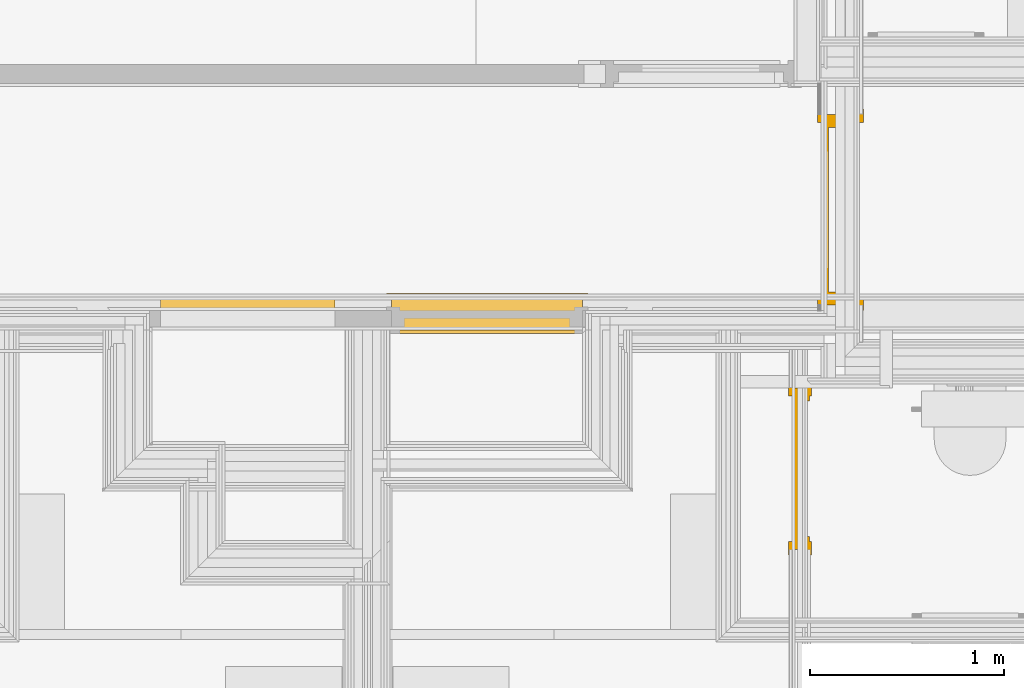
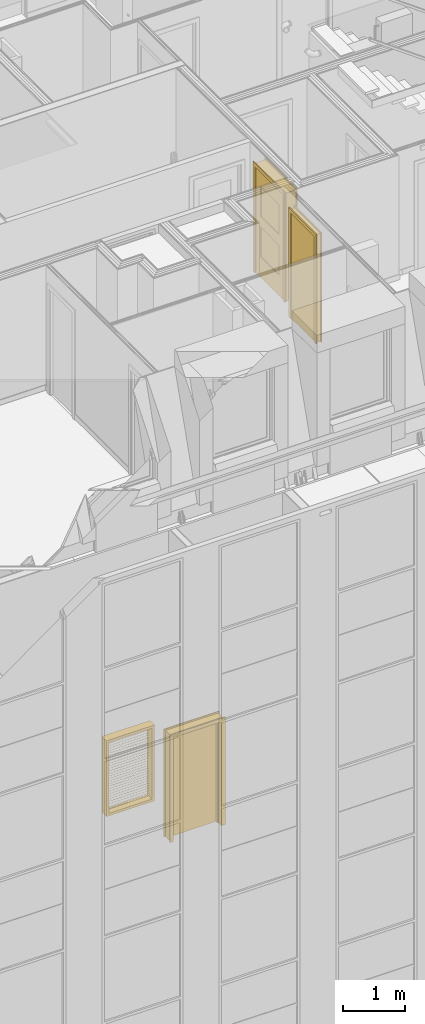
# One storey, part 106 of 169: 3 doors, 1 curtain wall.
"""IFC2X3 building model written with IfcOpenShell, lengths in metres."""

from ifc_helpers import new_model, entity, si_unit, converted_unit, derived_unit, money_unit, direction, frame, origin_with_axes, place, context, subcontext, project, spatial, open_shell, faceted_brep, surface_model, material, type_object, element, save


model = new_model("IFC2X3")

# Units and contexts
model_context = context("Model", 3, precision=1e-05, world=origin_with_axes(), true_north=direction((0.0, 1.0)))
body_context = subcontext(model_context, "Body", "Model", "MODEL_VIEW", scale=1.0)
ifc_project = project(units=[si_unit("LENGTHUNIT", "METRE"), si_unit("AREAUNIT", "SQUARE_METRE"), si_unit("VOLUMEUNIT", "CUBIC_METRE"), si_unit("ABSORBEDDOSEUNIT", "GRAY"), si_unit("AMOUNTOFSUBSTANCEUNIT", "MOLE"), si_unit("DOSEEQUIVALENTUNIT", "SIEVERT"), si_unit("ELECTRICCAPACITANCEUNIT", "FARAD"), si_unit("ELECTRICCHARGEUNIT", "COULOMB"), si_unit("ELECTRICCONDUCTANCEUNIT", "SIEMENS"), si_unit("ELECTRICCURRENTUNIT", "AMPERE"), si_unit("ELECTRICRESISTANCEUNIT", "OHM"), si_unit("ELECTRICVOLTAGEUNIT", "VOLT"), si_unit("ENERGYUNIT", "JOULE"), si_unit("FORCEUNIT", "NEWTON"), si_unit("FREQUENCYUNIT", "HERTZ"), si_unit("ILLUMINANCEUNIT", "LUX"), si_unit("INDUCTANCEUNIT", "HENRY"), si_unit("LUMINOUSFLUXUNIT", "LUMEN"), si_unit("LUMINOUSINTENSITYUNIT", "CANDELA"), si_unit("MAGNETICFLUXDENSITYUNIT", "TESLA"), si_unit("MAGNETICFLUXUNIT", "WEBER"), si_unit("MASSUNIT", "GRAM"), converted_unit("PLANEANGLEUNIT", "degree", entity("IfcReal", 0.0174532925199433), si_unit("PLANEANGLEUNIT", "RADIAN"), dimensions=[0, 0, 0, 0, 0, 0, 0]), si_unit("POWERUNIT", "WATT"), si_unit("PRESSUREUNIT", "PASCAL"), si_unit("RADIOACTIVITYUNIT", "BECQUEREL"), si_unit("SOLIDANGLEUNIT", "STERADIAN"), si_unit("THERMODYNAMICTEMPERATUREUNIT", "KELVIN"), si_unit("TIMEUNIT", "SECOND"), derived_unit("ACCELERATIONUNIT", [(si_unit("LENGTHUNIT", "METRE"), 1), (si_unit("TIMEUNIT", "SECOND"), -2)]), derived_unit("ANGULARVELOCITYUNIT", [(converted_unit("PLANEANGLEUNIT", "degree", entity("IfcReal", 0.0174532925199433), si_unit("PLANEANGLEUNIT", "RADIAN"), dimensions=[0, 0, 0, 0, 0, 0, 0]), 1), (si_unit("TIMEUNIT", "SECOND"), -1)]), derived_unit("CURVATUREUNIT", [(converted_unit("PLANEANGLEUNIT", "degree", entity("IfcReal", 0.0174532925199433), si_unit("PLANEANGLEUNIT", "RADIAN"), dimensions=[0, 0, 0, 0, 0, 0, 0]), 1), (si_unit("LENGTHUNIT", "METRE"), -1)]), derived_unit("DYNAMICVISCOSITYUNIT", [(si_unit("PRESSUREUNIT", "PASCAL"), 1), (si_unit("TIMEUNIT", "SECOND"), 1)]), derived_unit("HEATFLUXDENSITYUNIT", [(si_unit("POWERUNIT", "WATT"), 1), (si_unit("LENGTHUNIT", "METRE"), -2)]), derived_unit("HEATINGVALUEUNIT", [(si_unit("ENERGYUNIT", "JOULE"), 1), (si_unit("MASSUNIT", "GRAM"), -1)]), derived_unit("INTEGERCOUNTRATEUNIT", [(si_unit("TIMEUNIT", "SECOND"), -1)]), derived_unit("IONCONCENTRATIONUNIT", [(si_unit("MASSUNIT", "GRAM"), 1), (si_unit("VOLUMEUNIT", "CUBIC_METRE"), -1)]), derived_unit("ISOTHERMALMOISTURECAPACITYUNIT", [(si_unit("VOLUMEUNIT", "CUBIC_METRE"), 1), (si_unit("MASSUNIT", "GRAM"), -1)]), derived_unit("KINEMATICVISCOSITYUNIT", [(si_unit("AREAUNIT", "SQUARE_METRE"), 1), (si_unit("TIMEUNIT", "SECOND"), -1)]), derived_unit("LINEARFORCEUNIT", [(si_unit("FORCEUNIT", "NEWTON"), 1), (si_unit("LENGTHUNIT", "METRE"), -1)]), derived_unit("LINEARMOMENTUNIT", [(si_unit("FORCEUNIT", "NEWTON"), 1), (si_unit("LENGTHUNIT", "METRE"), -1)]), derived_unit("LINEARSTIFFNESSUNIT", [(si_unit("FORCEUNIT", "NEWTON"), 1), (si_unit("LENGTHUNIT", "METRE"), -1)]), derived_unit("LINEARVELOCITYUNIT", [(si_unit("LENGTHUNIT", "METRE"), 1), (si_unit("TIMEUNIT", "SECOND"), -1)]), derived_unit("LUMINOUSINTENSITYDISTRIBUTIONUNIT", [(si_unit("LUMINOUSINTENSITYUNIT", "CANDELA"), 1), (si_unit("LUMINOUSFLUXUNIT", "LUMEN"), -1)]), derived_unit("MASSDENSITYUNIT", [(si_unit("MASSUNIT", "GRAM"), 1), (si_unit("VOLUMEUNIT", "CUBIC_METRE"), -1)]), derived_unit("MASSFLOWRATEUNIT", [(si_unit("MASSUNIT", "GRAM"), 1), (si_unit("TIMEUNIT", "SECOND"), -1)]), derived_unit("MASSPERLENGTHUNIT", [(si_unit("MASSUNIT", "GRAM"), 1), (si_unit("LENGTHUNIT", "METRE"), -1)]), derived_unit("MODULUSOFELASTICITYUNIT", [(si_unit("FORCEUNIT", "NEWTON"), 1), (si_unit("AREAUNIT", "SQUARE_METRE"), -1)]), derived_unit("MODULUSOFLINEARSUBGRADEREACTIONUNIT", [(si_unit("FORCEUNIT", "NEWTON"), 1), (si_unit("LENGTHUNIT", "METRE"), -2)]), derived_unit("MODULUSOFROTATIONALSUBGRADEREACTIONUNIT", [(si_unit("FORCEUNIT", "NEWTON"), 1), (si_unit("LENGTHUNIT", "METRE"), 1)]), derived_unit("MODULUSOFSUBGRADEREACTIONUNIT", [(si_unit("FORCEUNIT", "NEWTON"), 1), (si_unit("VOLUMEUNIT", "CUBIC_METRE"), -1)]), derived_unit("MOISTUREDIFFUSIVITYUNIT", [(si_unit("VOLUMEUNIT", "CUBIC_METRE"), 1), (si_unit("TIMEUNIT", "SECOND"), -1)]), derived_unit("MOLECULARWEIGHTUNIT", [(si_unit("MASSUNIT", "GRAM"), 1), (si_unit("AMOUNTOFSUBSTANCEUNIT", "MOLE"), -1)]), derived_unit("PLANARFORCEUNIT", [(si_unit("FORCEUNIT", "NEWTON"), 1), (si_unit("LENGTHUNIT", "METRE"), -2)]), derived_unit("ROTATIONALFREQUENCYUNIT", [(si_unit("TIMEUNIT", "SECOND"), -1)]), derived_unit("ROTATIONALMASSUNIT", [(si_unit("MASSUNIT", "GRAM"), 1), (si_unit("LENGTHUNIT", "METRE"), 2)]), derived_unit("ROTATIONALSTIFFNESSUNIT", [(si_unit("FORCEUNIT", "NEWTON"), 1), (si_unit("LENGTHUNIT", "METRE"), 1), (converted_unit("PLANEANGLEUNIT", "degree", entity("IfcReal", 0.0174532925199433), si_unit("PLANEANGLEUNIT", "RADIAN"), dimensions=[0, 0, 0, 0, 0, 0, 0]), -1)]), derived_unit("SECTIONAREAINTEGRALUNIT", [(si_unit("LENGTHUNIT", "METRE"), 5)]), derived_unit("SECTIONMODULUSUNIT", [(si_unit("LENGTHUNIT", "METRE"), 3)]), derived_unit("SHEARMODULUSUNIT", [(si_unit("FORCEUNIT", "NEWTON"), 1), (si_unit("AREAUNIT", "SQUARE_METRE"), -1)]), derived_unit("SOUNDPOWERUNIT", [(si_unit("ENERGYUNIT", "JOULE"), 1), (si_unit("TIMEUNIT", "SECOND"), -1)]), derived_unit("SPECIFICHEATCAPACITYUNIT", [(si_unit("FORCEUNIT", "NEWTON"), 1), (si_unit("MASSUNIT", "GRAM"), -1), (si_unit("THERMODYNAMICTEMPERATUREUNIT", "KELVIN"), -1)]), derived_unit("TEMPERATUREGRADIENTUNIT", [(si_unit("THERMODYNAMICTEMPERATUREUNIT", "KELVIN"), 1), (si_unit("LENGTHUNIT", "METRE"), -1)]), derived_unit("THERMALADMITTANCEUNIT", [(si_unit("POWERUNIT", "WATT"), 1), (si_unit("AREAUNIT", "SQUARE_METRE"), -1), (si_unit("THERMODYNAMICTEMPERATUREUNIT", "KELVIN"), -1)]), derived_unit("THERMALCONDUCTANCEUNIT", [(si_unit("POWERUNIT", "WATT"), 1), (si_unit("LENGTHUNIT", "METRE"), -1), (si_unit("THERMODYNAMICTEMPERATUREUNIT", "KELVIN"), -1)]), derived_unit("THERMALEXPANSIONCOEFFICIENTUNIT", [(si_unit("THERMODYNAMICTEMPERATUREUNIT", "KELVIN"), -1)]), derived_unit("THERMALRESISTANCEUNIT", [(si_unit("AREAUNIT", "SQUARE_METRE"), 1), (si_unit("POWERUNIT", "WATT"), -1)]), derived_unit("THERMALTRANSMITTANCEUNIT", [(si_unit("POWERUNIT", "WATT"), 1), (si_unit("AREAUNIT", "SQUARE_METRE"), -1), (si_unit("THERMODYNAMICTEMPERATUREUNIT", "KELVIN"), -1)]), derived_unit("TORQUEUNIT", [(si_unit("FORCEUNIT", "NEWTON"), 1), (si_unit("LENGTHUNIT", "METRE"), 1)]), derived_unit("VAPORPERMEABILITYUNIT", [(si_unit("MASSUNIT", "GRAM"), 1), (si_unit("TIMEUNIT", "SECOND"), -1)]), derived_unit("VOLUMETRICFLOWRATEUNIT", [(si_unit("VOLUMEUNIT", "CUBIC_METRE"), 1), (si_unit("TIMEUNIT", "SECOND"), -1)]), derived_unit("WARPINGCONSTANTUNIT", [(si_unit("LENGTHUNIT", "METRE"), 6)]), derived_unit("WARPINGMOMENTUNIT", [(si_unit("FORCEUNIT", "NEWTON"), 1), (si_unit("LENGTHUNIT", "METRE"), 2)]), money_unit("GBP")], contexts=[model_context])

# Site, building, storey
site_placement = place(None, origin_with_axes())
site = spatial("IfcSite", under=ifc_project, at=site_placement, Name="Site", CompositionType="ELEMENT")
building_placement = place(site_placement, origin_with_axes())
building = spatial("IfcBuilding", under=site, at=building_placement, Name="Building01", CompositionType="ELEMENT")
storey_placement = place(building_placement, frame((0.0, 0.0, 5.15), z_axis=(0.0, 0.0, 1.0), x_axis=(1.0, 0.0, 0.0)))
storey = spatial("IfcBuildingStorey", under=building, at=storey_placement, Name="1F", CompositionType="ELEMENT", Elevation=5.15)

# Curtain wall
ifc_material_1 = material(Name="A-CurtainWall_Frame")
curtain_wall_type = type_object("IfcCurtainWallType", Name="Generic - Maximum Spacing", PredefinedType="NOTDEFINED")
curtain_wall_placement = place(storey_placement, frame((0.0, 0.0, -5.15), z_axis=(0.0, 0.0, 1.0), x_axis=(1.0, 0.0, 0.0)))
element("IfcCurtainWall", 1, at=curtain_wall_placement, inside=storey, type_object=curtain_wall_type, material=ifc_material_1, Name="Generic - Maximum Spacing", ObjectType="Generic - Maximum Spacing", context=body_context, shape_type="SurfaceModel", body=[
    surface_model("IfcShellBasedSurfaceModel", [(12.483, 5.12953, 6.083684), (12.483, 5.131392, 6.086216), (12.483, 5.09047, 6.116316), (12.483, 5.088608, 6.113784), (13.283, 5.12953, 6.083684), (13.283, 5.088608, 6.113784), (13.283, 5.09047, 6.116316), (13.283, 5.131392, 6.086216), (12.483, 5.131392, 6.136216), (12.483, 5.09047, 6.166316), (12.483, 5.088608, 6.163784), (12.483, 5.12953, 6.133684), (13.283, 5.12953, 6.133684), (13.283, 5.088608, 6.163784), (13.283, 5.09047, 6.166316), (13.283, 5.131392, 6.136216), (12.483, 5.131392, 6.186216), (12.483, 5.09047, 6.216316), (12.483, 5.088608, 6.213784), (12.483, 5.12953, 6.183684), (13.283, 5.12953, 6.183684), (13.283, 5.088608, 6.213784), (13.283, 5.09047, 6.216316), (13.283, 5.131392, 6.186216), (12.483, 5.131392, 6.236216), (12.483, 5.09047, 6.266316), (12.483, 5.088608, 6.263784), (12.483, 5.12953, 6.233684), (13.283, 5.12953, 6.233684), (13.283, 5.088608, 6.263784), (13.283, 5.09047, 6.266316), (13.283, 5.131392, 6.236216), (12.483, 5.131392, 6.286216), (12.483, 5.09047, 6.316316), (12.483, 5.088608, 6.313784), (12.483, 5.12953, 6.283684), (13.283, 5.12953, 6.283684), (13.283, 5.088608, 6.313784), (13.283, 5.09047, 6.316316), (13.283, 5.131392, 6.286216), (12.483, 5.131392, 6.336216), (12.483, 5.09047, 6.366316), (12.483, 5.088608, 6.363784), (12.483, 5.12953, 6.333684), (13.283, 5.12953, 6.333684), (13.283, 5.088608, 6.363784), (13.283, 5.09047, 6.366316), (13.283, 5.131392, 6.336216), (12.483, 5.131392, 6.386216), (12.483, 5.09047, 6.416316), (12.483, 5.088608, 6.413784), (12.483, 5.12953, 6.383684), (13.283, 5.12953, 6.383684), (13.283, 5.088608, 6.413784), (13.283, 5.09047, 6.416316), (13.283, 5.131392, 6.386216), (12.483, 5.131392, 6.436216), (12.483, 5.09047, 6.466316), (12.483, 5.088608, 6.463784), (12.483, 5.12953, 6.433684), (13.283, 5.12953, 6.433684), (13.283, 5.088608, 6.463784), (13.283, 5.09047, 6.466316), (13.283, 5.131392, 6.436216), (12.483, 5.131392, 6.486216), (12.483, 5.09047, 6.516316), (12.483, 5.088608, 6.513784), (12.483, 5.12953, 6.483684), (13.283, 5.12953, 6.483684), (13.283, 5.088608, 6.513784), (13.283, 5.09047, 6.516316), (13.283, 5.131392, 6.486216), (12.483, 5.131392, 6.536216), (12.483, 5.09047, 6.566316), (12.483, 5.088608, 6.563784), (12.483, 5.12953, 6.533684), (13.283, 5.12953, 6.533684), (13.283, 5.088608, 6.563784), (13.283, 5.09047, 6.566316), (13.283, 5.131392, 6.536216), (12.483, 5.131392, 6.586216), (12.483, 5.09047, 6.616316), (12.483, 5.088608, 6.613784), (12.483, 5.12953, 6.583684), (13.283, 5.12953, 6.583684), (13.283, 5.088608, 6.613784), (13.283, 5.09047, 6.616316), (13.283, 5.131392, 6.586216), (12.483, 5.131392, 6.636216), (12.483, 5.09047, 6.666316), (12.483, 5.088608, 6.663784), (12.483, 5.12953, 6.633684), (13.283, 5.12953, 6.633684), (13.283, 5.088608, 6.663784), (13.283, 5.09047, 6.666316), (13.283, 5.131392, 6.636216), (12.483, 5.131392, 6.686216), (12.483, 5.09047, 6.716316), (12.483, 5.088608, 6.713784), (12.483, 5.12953, 6.683684), (13.283, 5.12953, 6.683684), (13.283, 5.088608, 6.713784), (13.283, 5.09047, 6.716316), (13.283, 5.131392, 6.686216), (12.483, 5.131392, 6.736216), (12.483, 5.09047, 6.766316), (12.483, 5.088608, 6.763784), (12.483, 5.12953, 6.733684), (13.283, 5.12953, 6.733684), (13.283, 5.088608, 6.763784), (13.283, 5.09047, 6.766316), (13.283, 5.131392, 6.736216), (12.483, 5.131392, 6.786216), (12.483, 5.09047, 6.816316), (12.483, 5.088608, 6.813784), (12.483, 5.12953, 6.783684), (13.283, 5.12953, 6.783684), (13.283, 5.088608, 6.813784), (13.283, 5.09047, 6.816316), (13.283, 5.131392, 6.786216), (12.483, 5.131392, 6.836216), (12.483, 5.09047, 6.866316), (12.483, 5.088608, 6.863784), (12.483, 5.12953, 6.833684), (13.283, 5.12953, 6.833684), (13.283, 5.088608, 6.863784), (13.283, 5.09047, 6.866316), (13.283, 5.131392, 6.836216), (12.483, 5.131392, 6.886216), (12.483, 5.09047, 6.916316), (12.483, 5.088608, 6.913784), (12.483, 5.12953, 6.883684), (13.283, 5.12953, 6.883684), (13.283, 5.088608, 6.913784), (13.283, 5.09047, 6.916316), (13.283, 5.131392, 6.886216), (12.483, 5.131392, 6.936216), (12.483, 5.09047, 6.966316), (12.483, 5.088608, 6.963784), (12.483, 5.12953, 6.933684), (13.283, 5.12953, 6.933684), (13.283, 5.088608, 6.963784), (13.283, 5.09047, 6.966316), (13.283, 5.131392, 6.936216), (12.483, 5.131392, 6.986216), (12.483, 5.09047, 7.016316), (12.483, 5.088608, 7.013784), (12.483, 5.12953, 6.983684), (13.283, 5.12953, 6.983684), (13.283, 5.088608, 7.013784), (13.283, 5.09047, 7.016316), (13.283, 5.131392, 6.986216), (12.483, 5.131392, 7.036216), (12.483, 5.09047, 7.066316), (12.483, 5.088608, 7.063784), (12.483, 5.12953, 7.033684), (13.283, 5.12953, 7.033684), (13.283, 5.088608, 7.063784), (13.283, 5.09047, 7.066316), (13.283, 5.131392, 7.036216), (12.483, 5.131392, 7.086216), (12.483, 5.09047, 7.116316), (12.483, 5.088608, 7.113784), (12.483, 5.12953, 7.083684), (13.283, 5.12953, 7.083684), (13.283, 5.088608, 7.113784), (13.283, 5.09047, 7.116316), (13.283, 5.131392, 7.086216), (12.483, 5.131392, 7.136216), (12.483, 5.09047, 7.166316), (12.483, 5.088608, 7.163784), (12.483, 5.12953, 7.133684), (13.283, 5.12953, 7.133684), (13.283, 5.088608, 7.163784), (13.283, 5.09047, 7.166316), (13.283, 5.131392, 7.136216), (12.483, 5.131392, 7.186216), (12.483, 5.09047, 7.216316), (12.483, 5.088608, 7.213784), (12.483, 5.12953, 7.183684), (13.283, 5.12953, 7.183684), (13.283, 5.088608, 7.213784), (13.283, 5.09047, 7.216316), (13.283, 5.131392, 7.186216), (12.483, 5.131392, 7.236216), (12.483, 5.09047, 7.266316), (12.483, 5.088608, 7.263784), (12.483, 5.12953, 7.233684), (13.283, 5.12953, 7.233684), (13.283, 5.088608, 7.263784), (13.283, 5.09047, 7.266316), (13.283, 5.131392, 7.236216), (12.483, 5.131392, 7.286216), (12.483, 5.09047, 7.316316), (12.483, 5.088608, 7.313784), (12.483, 5.12953, 7.283684), (13.283, 5.12953, 7.283684), (13.283, 5.088608, 7.313784), (13.283, 5.09047, 7.316316), (13.283, 5.131392, 7.286216), (12.483, 5.131392, 7.336216), (12.483, 5.09047, 7.366316), (12.483, 5.088608, 7.363784), (12.483, 5.12953, 7.333684), (13.283, 5.12953, 7.333684), (13.283, 5.088608, 7.363784), (13.283, 5.09047, 7.366316), (13.283, 5.131392, 7.336216), (12.483, 5.131392, 7.386216), (12.483, 5.09047, 7.416316), (12.483, 5.088608, 7.413784), (12.483, 5.12953, 7.383684), (13.283, 5.12953, 7.383684), (13.283, 5.088608, 7.413784), (13.283, 5.09047, 7.416316), (13.283, 5.131392, 7.386216), (12.483, 5.131392, 7.436216), (12.483, 5.09047, 7.466316), (12.483, 5.088608, 7.463784), (12.483, 5.12953, 7.433684), (13.283, 5.12953, 7.433684), (13.283, 5.088608, 7.463784), (13.283, 5.09047, 7.466316), (13.283, 5.131392, 7.436216), (13.283, 5.15, 6.1), (13.283, 5.0, 6.1), (13.283, 5.0, 6.05), (13.283, 5.15, 6.05), (12.483, 5.15, 6.05), (12.483, 5.15, 6.1), (12.483, 5.0, 6.1), (12.483, 5.0, 6.05), (13.333, 5.0, 7.55), (13.333, 5.15, 7.55), (13.283, 5.15, 7.55), (13.283, 5.0, 7.55), (13.333, 5.0, 6.05), (13.333, 5.15, 6.05), (12.483, 5.0, 7.55), (12.483, 5.15, 7.55), (12.483, 5.15, 7.5), (12.483, 5.0, 7.5), (13.283, 5.0, 7.5), (13.283, 5.15, 7.5), (12.433, 5.0, 6.05), (12.433, 5.15, 6.05), (12.433, 5.0, 7.55), (12.433, 5.15, 7.55)], [open_shell([[[0, 1, 2, 3]], [[1, 2, 3, 0]], [[4, 5, 6, 7]], [[1, 0, 4, 7]], [[2, 1, 7, 6]], [[3, 2, 6, 5]], [[4, 0, 3, 5]], [[8, 9, 10, 11]], [[12, 13, 14, 15]], [[8, 11, 12, 15]], [[9, 8, 15, 14]], [[10, 9, 14, 13]], [[12, 11, 10, 13]], [[16, 17, 18, 19]], [[20, 21, 22, 23]], [[16, 19, 20, 23]], [[17, 16, 23, 22]], [[18, 17, 22, 21]], [[20, 19, 18, 21]], [[24, 25, 26, 27]], [[28, 29, 30, 31]], [[24, 27, 28, 31]], [[25, 24, 31, 30]], [[26, 25, 30, 29]], [[28, 27, 26, 29]], [[32, 33, 34, 35]], [[36, 37, 38, 39]], [[32, 35, 36, 39]], [[33, 32, 39, 38]], [[34, 33, 38, 37]], [[36, 35, 34, 37]], [[40, 41, 42, 43]], [[44, 45, 46, 47]], [[40, 43, 44, 47]], [[41, 40, 47, 46]], [[42, 41, 46, 45]], [[44, 43, 42, 45]], [[48, 49, 50, 51]], [[52, 53, 54, 55]], [[48, 51, 52, 55]], [[49, 48, 55, 54]], [[50, 49, 54, 53]], [[52, 51, 50, 53]], [[56, 57, 58, 59]], [[60, 61, 62, 63]], [[56, 59, 60, 63]], [[57, 56, 63, 62]], [[58, 57, 62, 61]], [[60, 59, 58, 61]], [[64, 65, 66, 67]], [[68, 69, 70, 71]], [[64, 67, 68, 71]], [[65, 64, 71, 70]], [[66, 65, 70, 69]], [[68, 67, 66, 69]], [[72, 73, 74, 75]], [[76, 77, 78, 79]], [[72, 75, 76, 79]], [[73, 72, 79, 78]], [[74, 73, 78, 77]], [[76, 75, 74, 77]], [[80, 81, 82, 83]], [[84, 85, 86, 87]], [[80, 83, 84, 87]], [[81, 80, 87, 86]], [[82, 81, 86, 85]], [[84, 83, 82, 85]], [[88, 89, 90, 91]], [[92, 93, 94, 95]], [[88, 91, 92, 95]], [[89, 88, 95, 94]], [[90, 89, 94, 93]], [[92, 91, 90, 93]], [[96, 97, 98, 99]], [[100, 101, 102, 103]], [[96, 99, 100, 103]], [[97, 96, 103, 102]], [[98, 97, 102, 101]], [[100, 99, 98, 101]], [[104, 105, 106, 107]], [[108, 109, 110, 111]], [[104, 107, 108, 111]], [[105, 104, 111, 110]], [[106, 105, 110, 109]], [[108, 107, 106, 109]], [[112, 113, 114, 115]], [[116, 117, 118, 119]], [[112, 115, 116, 119]], [[113, 112, 119, 118]], [[114, 113, 118, 117]], [[116, 115, 114, 117]], [[120, 121, 122, 123]], [[124, 125, 126, 127]], [[120, 123, 124, 127]], [[121, 120, 127, 126]], [[122, 121, 126, 125]], [[124, 123, 122, 125]], [[128, 129, 130, 131]], [[132, 133, 134, 135]], [[128, 131, 132, 135]], [[129, 128, 135, 134]], [[130, 129, 134, 133]], [[132, 131, 130, 133]], [[136, 137, 138, 139]], [[140, 141, 142, 143]], [[136, 139, 140, 143]], [[137, 136, 143, 142]], [[138, 137, 142, 141]], [[140, 139, 138, 141]], [[144, 145, 146, 147]], [[148, 149, 150, 151]], [[144, 147, 148, 151]], [[145, 144, 151, 150]], [[146, 145, 150, 149]], [[148, 147, 146, 149]], [[152, 153, 154, 155]], [[156, 157, 158, 159]], [[152, 155, 156, 159]], [[153, 152, 159, 158]], [[154, 153, 158, 157]], [[156, 155, 154, 157]], [[160, 161, 162, 163]], [[164, 165, 166, 167]], [[160, 163, 164, 167]], [[161, 160, 167, 166]], [[162, 161, 166, 165]], [[164, 163, 162, 165]], [[168, 169, 170, 171]], [[172, 173, 174, 175]], [[168, 171, 172, 175]], [[169, 168, 175, 174]], [[170, 169, 174, 173]], [[172, 171, 170, 173]], [[176, 177, 178, 179]], [[180, 181, 182, 183]], [[176, 179, 180, 183]], [[177, 176, 183, 182]], [[178, 177, 182, 181]], [[180, 179, 178, 181]], [[184, 185, 186, 187]], [[188, 189, 190, 191]], [[184, 187, 188, 191]], [[185, 184, 191, 190]], [[186, 185, 190, 189]], [[188, 187, 186, 189]], [[192, 193, 194, 195]], [[196, 197, 198, 199]], [[192, 195, 196, 199]], [[193, 192, 199, 198]], [[194, 193, 198, 197]], [[196, 195, 194, 197]], [[200, 201, 202, 203]], [[204, 205, 206, 207]], [[200, 203, 204, 207]], [[201, 200, 207, 206]], [[202, 201, 206, 205]], [[204, 203, 202, 205]], [[208, 209, 210, 211]], [[212, 213, 214, 215]], [[208, 211, 212, 215]], [[209, 208, 215, 214]], [[210, 209, 214, 213]], [[212, 211, 210, 213]], [[216, 217, 218, 219]], [[220, 221, 222, 223]], [[216, 219, 220, 223]], [[217, 216, 223, 222]], [[218, 217, 222, 221]], [[220, 219, 218, 221]], [[224, 225, 226, 227]], [[227, 228, 229, 224]], [[224, 229, 230, 225]], [[225, 230, 231, 226]], [[226, 231, 228, 227]], [[231, 230, 229, 228]], [[232, 233, 234, 235]], [[235, 226, 236, 232]], [[234, 227, 226, 235]], [[233, 237, 227, 234]], [[232, 236, 237, 233]], [[226, 227, 237, 236]], [[238, 239, 240, 241]], [[241, 242, 235, 238]], [[238, 235, 234, 239]], [[239, 234, 243, 240]], [[240, 243, 242, 241]], [[243, 234, 235, 242]], [[244, 245, 228, 231]], [[231, 238, 246, 244]], [[228, 239, 238, 231]], [[245, 247, 239, 228]], [[244, 246, 247, 245]], [[238, 239, 247, 246]]])]),
])

# Space
space_1_placement = place(storey_placement, frame((17.73844, 7.349915, 9.86), z_axis=(0.0, 0.0, 1.0), x_axis=(0.0, -1.0, 0.0)))
space_1 = spatial("IfcSpace", under=storey, at=space_1_placement, Name="24", CompositionType="ELEMENT", InteriorOrExteriorSpace="NOTDEFINED")

# Door
ifc_material_2 = material(Name="A_BSUK_Doors")
door_style_1 = type_object("IfcDoorStyle", Name="A-Doors-SingleFlush", ConstructionType="USERDEFINED", OperationType="SINGLE_SWING_RIGHT", ParameterTakesPrecedence=False, Sizeable=False)
door_1_placement = place(storey_placement, frame((15.69, 3.889761, 9.83), z_axis=(0.0, 0.0, 1.0), x_axis=(0.0, 1.0, 0.0)))
element("IfcDoor", 2, at=door_1_placement, inside=space_1, type_object=door_style_1, material=ifc_material_2, Name="4.11", ObjectType="A-Doors-SingleFlush", OverallHeight=2.16900000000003, OverallWidth=0.888000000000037, context=body_context, shape_type="Brep", body=[
    faceted_brep([(0.75, -0.099, 0.0), (0.819, -0.099, 0.0), (0.819, -0.099, 2.169), (-0.069, -0.099, 2.169), (-0.069, -0.099, 0.0), (0.0, -0.099, 0.0), (0.0, -0.099, 2.1), (0.75, -0.099, 2.1), (-0.069, -0.08, 0.0), (-0.069, -0.08, 2.169), (0.819, -0.08, 2.169), (0.819, -0.08, 0.0), (0.75, 0.019, 0.0), (0.819, 0.019, 0.0), (0.819, 0.0, 0.0), (0.792, 0.0, 0.0), (0.792, -0.08, 0.0), (0.75, 0.019, 2.1), (0.0, 0.019, 2.1), (0.0, 0.019, 0.0), (-0.069, 0.019, 0.0), (-0.069, 0.019, 2.169), (0.819, 0.019, 2.169), (0.819, 0.0, 2.169), (0.792, -0.08, 2.142), (0.792, 0.0, 2.142), (-0.042, -0.08, 2.142), (-0.042, 0.0, 2.142), (-0.042, -0.08, 0.0), (-0.042, 0.0, 0.0), (-0.069, 0.0, 2.169), (-0.069, 0.0, 0.0)], [[[0, 1, 2, 3, 4, 5, 6, 7]], [[8, 4, 3, 9]], [[10, 2, 1, 11]], [[9, 3, 2, 10]], [[12, 13, 14, 15, 16, 11, 1, 0]], [[7, 17, 12, 0]], [[6, 18, 17, 7]], [[18, 19, 20, 21, 22, 13, 12, 17]], [[5, 19, 18, 6]], [[13, 22, 23, 14]], [[24, 16, 15, 25]], [[26, 24, 25, 27]], [[11, 16, 24, 26, 28, 8, 9, 10]], [[27, 29, 28, 26]], [[25, 15, 14, 23, 30, 31, 29, 27]], [[5, 4, 8, 28, 29, 31, 20, 19]], [[30, 21, 20, 31]], [[23, 22, 21, 30]]]),
    faceted_brep([(0.0, -0.09, 2.1), (0.0, -0.04, 2.1), (0.0, -0.04, 0.0), (0.0, -0.09, 0.0), (0.725, -0.09, 0.0), (0.75, -0.09, 0.0), (0.75, -0.09, 2.1), (0.025, -0.09, 0.0), (0.025, -0.09, 2.075), (0.725, -0.09, 2.075), (0.725, -0.04, 0.0), (0.75, -0.04, 0.0), (0.75, -0.04, 2.1), (0.025, -0.04, 2.075), (0.025, -0.04, 0.0), (0.725, -0.04, 2.075)], [[[0, 1, 2, 3]], [[4, 5, 6, 0, 3, 7, 8, 9]], [[10, 11, 5, 4]], [[6, 12, 1, 0]], [[5, 11, 12, 6]], [[13, 14, 2, 1, 12, 11, 10, 15]], [[7, 14, 13, 8]], [[7, 3, 2, 14]], [[9, 15, 10, 4]], [[8, 13, 15, 9]]]),
    faceted_brep([(0.75, -0.04, 0.0), (0.75, 0.0, 0.0), (0.75, 0.0, 2.1), (0.75, -0.04, 2.1), (0.0, -0.04, 2.1), (0.0, 0.0, 2.1), (0.0, 0.0, 0.0), (0.0, -0.04, 0.0)], [[[0, 1, 2, 3]], [[4, 5, 6, 7]], [[7, 6, 1, 0]], [[3, 4, 7, 0]], [[3, 2, 5, 4]], [[1, 6, 5, 2]]]),
])

# Space
space_2_placement = place(storey_placement, frame((9.227386, 6.85, 0.017932), z_axis=(0.0, 0.0, 1.0), x_axis=(0.0, -1.0, 0.0)))
space_2 = spatial("IfcSpace", under=storey, at=space_2_placement, Name="hall (vented)", CompositionType="ELEMENT", InteriorOrExteriorSpace="NOTDEFINED")

# Door
door_style_2 = type_object("IfcDoorStyle", Name="A-Doors-DoubleFlush", ConstructionType="USERDEFINED", OperationType="DOUBLE_DOOR_SINGLE_SWING", ParameterTakesPrecedence=False, Sizeable=False)
door_2_placement = place(storey_placement, frame((13.667, 5.15, 0.0), z_axis=(0.0, 0.0, 1.0), x_axis=(1.0, 0.0, 0.0)))
element("IfcDoor", 3, at=door_2_placement, inside=space_2, type_object=door_style_2, material=ifc_material_2, Name="1.03", ObjectType="A-Doors-DoubleFlush", OverallHeight=2.12700000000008, OverallWidth=1.03800000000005, context=body_context, shape_type="Brep", body=[
    faceted_brep([(0.0, -0.189, 2.058), (0.9, -0.189, 2.058), (0.9, -0.189, 0.0), (0.969, -0.189, 0.0), (0.969, -0.189, 2.127), (-0.069, -0.189, 2.127), (-0.069, -0.189, 0.0), (0.0, -0.189, 0.0), (0.969, -0.17, 2.127), (0.969, -0.17, 0.0), (-0.069, -0.17, 0.0), (-0.069, -0.17, 2.127), (-0.042, -0.17, 0.0), (-0.042, 0.0, 0.0), (-0.069, 0.0, 0.0), (-0.069, 0.019, 0.0), (0.0, 0.019, 0.0), (0.0, 0.019, 2.058), (0.9, 0.019, 2.058), (-0.069, 0.019, 2.127), (0.969, 0.019, 2.127), (0.969, 0.019, 0.0), (0.9, 0.019, 0.0), (-0.069, 0.0, 2.127), (-0.042, 0.0, 2.1), (-0.042, -0.17, 2.1), (0.942, 0.0, 2.1), (0.942, -0.17, 2.1), (0.942, -0.17, 0.0), (0.942, 0.0, 0.0), (0.969, 0.0, 0.0), (0.969, 0.0, 2.127)], [[[0, 1, 2, 3, 4, 5, 6, 7]], [[8, 4, 3, 9]], [[10, 6, 5, 11]], [[11, 5, 4, 8]], [[7, 6, 10, 12, 13, 14, 15, 16]], [[7, 16, 17, 0]], [[0, 17, 18, 1]], [[17, 16, 15, 19, 20, 21, 22, 18]], [[1, 18, 22, 2]], [[14, 23, 19, 15]], [[24, 13, 12, 25]], [[26, 24, 25, 27]], [[11, 8, 9, 28, 27, 25, 12, 10]], [[27, 28, 29, 26]], [[26, 29, 30, 31, 23, 14, 13, 24]], [[22, 21, 30, 29, 28, 9, 3, 2]], [[30, 21, 20, 31]], [[31, 20, 19, 23]]]),
    faceted_brep([(0.9, -0.09, 0.0), (0.9, -0.04, 0.0), (0.9, -0.04, 2.058), (0.9, -0.09, 2.058), (0.025, -0.09, 2.033), (0.875, -0.09, 2.033), (0.875, -0.09, 0.0), (0.0, -0.09, 2.058), (0.0, -0.09, 0.0), (0.025, -0.09, 0.0), (0.0, -0.04, 0.0), (0.025, -0.04, 0.0), (0.0, -0.04, 2.058), (0.025, -0.04, 2.033), (0.875, -0.04, 0.0), (0.875, -0.04, 2.033)], [[[0, 1, 2, 3]], [[4, 5, 6, 0, 3, 7, 8, 9]], [[9, 8, 10, 11]], [[3, 2, 12, 7]], [[7, 12, 10, 8]], [[13, 11, 10, 12, 2, 1, 14, 15]], [[5, 15, 14, 6]], [[14, 1, 0, 6]], [[9, 11, 13, 4]], [[4, 13, 15, 5]]]),
    faceted_brep([(0.0, -0.04, 2.058), (0.0, 0.0, 2.058), (0.0, 0.0, 0.0), (0.0, -0.04, 0.0), (0.45, -0.04, 0.0), (0.45, 0.0, 0.0), (0.45, 0.0, 2.058), (0.45, -0.04, 2.058)], [[[0, 1, 2, 3]], [[4, 5, 6, 7]], [[3, 2, 5, 4]], [[3, 4, 7, 0]], [[7, 6, 1, 0]], [[1, 6, 5, 2]]]),
    faceted_brep([(0.45, -0.04, 2.058), (0.45, 0.0, 2.058), (0.45, 0.0, 0.0), (0.45, -0.04, 0.0), (0.9, -0.04, 0.0), (0.9, 0.0, 0.0), (0.9, 0.0, 2.058), (0.9, -0.04, 2.058)], [[[0, 1, 2, 3]], [[4, 5, 6, 7]], [[3, 2, 5, 4]], [[3, 4, 7, 0]], [[7, 6, 1, 0]], [[1, 6, 5, 2]]]),
])

# Space
space_3_placement = place(storey_placement, frame((9.23, 5.08, 9.86), z_axis=(0.0, 0.0, 1.0), x_axis=(1.0, 0.0, 0.0)))
space_3 = spatial("IfcSpace", under=storey, at=space_3_placement, Name="hall (vented)", CompositionType="ELEMENT", InteriorOrExteriorSpace="NOTDEFINED")

# Door
door_style_3 = type_object("IfcDoorStyle", Name="A-Doors-SingleVisionPanels", ConstructionType="USERDEFINED", OperationType="SINGLE_SWING_LEFT", ParameterTakesPrecedence=False, Sizeable=False)
door_3_placement = place(storey_placement, frame((15.83844, 5.15, 9.83), z_axis=(0.0, 0.0, 1.0), x_axis=(0.0, 1.0, 0.0)))
element("IfcDoor", 4, at=door_3_placement, inside=space_3, type_object=door_style_3, material=ifc_material_2, Name="4.02", ObjectType="A-Doors-SingleVisionPanels", OverallHeight=2.16900000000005, OverallWidth=1.03800000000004, context=body_context, shape_type="Brep", body=[
    faceted_brep([(0.0, -0.219, 2.1), (0.9, -0.219, 2.1), (0.9, -0.219, 0.0), (0.969, -0.219, 0.0), (0.969, -0.219, 2.169), (-0.069, -0.219, 2.169), (-0.069, -0.219, 0.0), (0.0, -0.219, 0.0), (0.969, -0.2, 2.169), (0.969, -0.2, 0.0), (-0.069, -0.2, 0.0), (-0.069, -0.2, 2.169), (-0.042, -0.2, 0.0), (-0.042, 0.0, 0.0), (-0.069, 0.0, 0.0), (-0.069, 0.019, 0.0), (0.0, 0.019, 0.0), (0.0, 0.019, 2.1), (0.9, 0.019, 2.1), (-0.069, 0.019, 2.169), (0.969, 0.019, 2.169), (0.969, 0.019, 0.0), (0.9, 0.019, 0.0), (-0.069, 0.0, 2.169), (-0.042, 0.0, 2.142), (-0.042, -0.2, 2.142), (0.942, 0.0, 2.142), (0.942, -0.2, 2.142), (0.942, -0.2, 0.0), (0.942, 0.0, 0.0), (0.969, 0.0, 0.0), (0.969, 0.0, 2.169)], [[[0, 1, 2, 3, 4, 5, 6, 7]], [[8, 4, 3, 9]], [[10, 6, 5, 11]], [[11, 5, 4, 8]], [[7, 6, 10, 12, 13, 14, 15, 16]], [[7, 16, 17, 0]], [[0, 17, 18, 1]], [[17, 16, 15, 19, 20, 21, 22, 18]], [[1, 18, 22, 2]], [[14, 23, 19, 15]], [[24, 13, 12, 25]], [[26, 24, 25, 27]], [[11, 8, 9, 28, 27, 25, 12, 10]], [[27, 28, 29, 26]], [[26, 29, 30, 31, 23, 14, 13, 24]], [[22, 21, 30, 29, 28, 9, 3, 2]], [[30, 21, 20, 31]], [[31, 20, 19, 23]]]),
    faceted_brep([(0.9, -0.09, 0.0), (0.9, -0.04, 0.0), (0.9, -0.04, 2.1), (0.9, -0.09, 2.1), (0.025, -0.09, 2.075), (0.875, -0.09, 2.075), (0.875, -0.09, 0.0), (0.0, -0.09, 2.1), (0.0, -0.09, 0.0), (0.025, -0.09, 0.0), (0.0, -0.04, 0.0), (0.025, -0.04, 0.0), (0.0, -0.04, 2.1), (0.025, -0.04, 2.075), (0.875, -0.04, 0.0), (0.875, -0.04, 2.075)], [[[0, 1, 2, 3]], [[4, 5, 6, 0, 3, 7, 8, 9]], [[9, 8, 10, 11]], [[3, 2, 12, 7]], [[7, 12, 10, 8]], [[13, 11, 10, 12, 2, 1, 14, 15]], [[5, 15, 14, 6]], [[14, 1, 0, 6]], [[9, 11, 13, 4]], [[4, 13, 15, 5]]]),
    faceted_brep([(0.15, -0.017, 0.4), (0.15, -0.023, 0.4), (0.15, -0.023, 1.0), (0.15, -0.017, 1.0), (0.75, -0.017, 1.0), (0.75, -0.023, 1.0), (0.75, -0.023, 0.4), (0.75, -0.017, 0.4)], [[[0, 1, 2, 3]], [[4, 5, 6, 7]], [[3, 2, 5, 4]], [[3, 4, 7, 0]], [[7, 6, 1, 0]], [[1, 6, 5, 2]]]),
    faceted_brep([(0.15, -0.017, 1.2), (0.15, -0.023, 1.2), (0.15, -0.023, 1.8), (0.15, -0.017, 1.8), (0.75, -0.017, 1.8), (0.75, -0.023, 1.8), (0.75, -0.023, 1.2), (0.75, -0.017, 1.2)], [[[0, 1, 2, 3]], [[4, 5, 6, 7]], [[3, 2, 5, 4]], [[3, 4, 7, 0]], [[7, 6, 1, 0]], [[1, 6, 5, 2]]]),
    faceted_brep([(0.15, -0.04, 1.8), (0.15, 0.0, 1.8), (0.75, 0.0, 1.8), (0.75, -0.04, 1.8), (0.75, -0.04, 1.0), (0.75, 0.0, 1.0), (0.75, 0.0, 0.4), (0.75, -0.04, 0.4), (0.15, 0.0, 0.4), (0.15, -0.04, 0.4), (0.15, 0.0, 1.0), (0.15, -0.04, 1.0), (0.9, 0.0, 0.0), (0.0, 0.0, 0.0), (0.0, 0.0, 2.1), (0.9, 0.0, 2.1), (0.15, 0.0, 1.2), (0.75, 0.0, 1.2), (0.9, -0.04, 0.0), (0.9, -0.04, 2.1), (0.0, -0.04, 2.1), (0.0, -0.04, 0.0), (0.75, -0.04, 1.2), (0.15, -0.04, 1.2)], [[[0, 1, 2, 3]], [[4, 5, 6, 7]], [[7, 6, 8, 9]], [[9, 8, 10, 11]], [[11, 10, 5, 4]], [[12, 13, 14, 15], [5, 10, 8, 6], [2, 1, 16, 17]], [[18, 12, 15, 19]], [[19, 15, 14, 20]], [[20, 14, 13, 21]], [[21, 13, 12, 18]], [[3, 2, 17, 22]], [[22, 17, 16, 23]], [[23, 16, 1, 0]], [[19, 20, 21, 18], [9, 11, 4, 7], [23, 0, 3, 22]]]),
])

save(model, "model.ifc")
